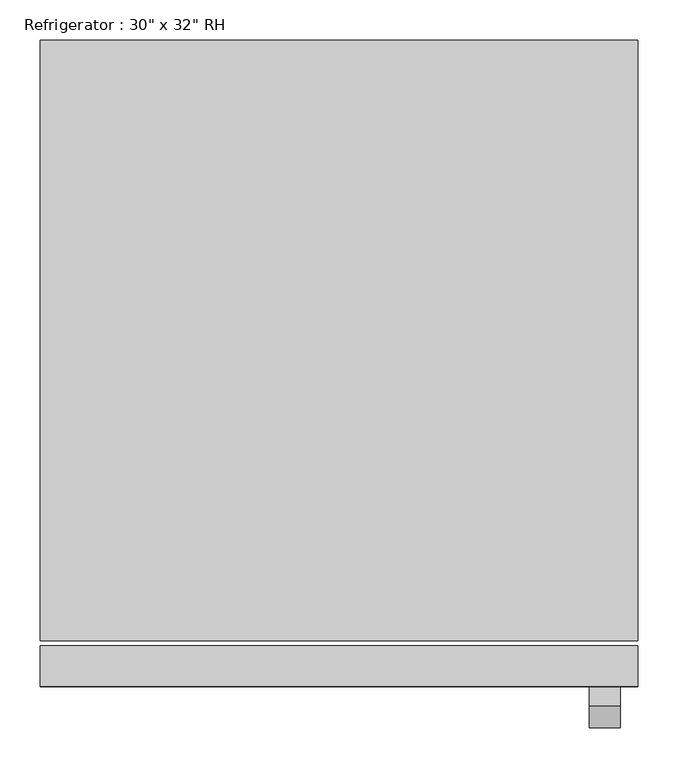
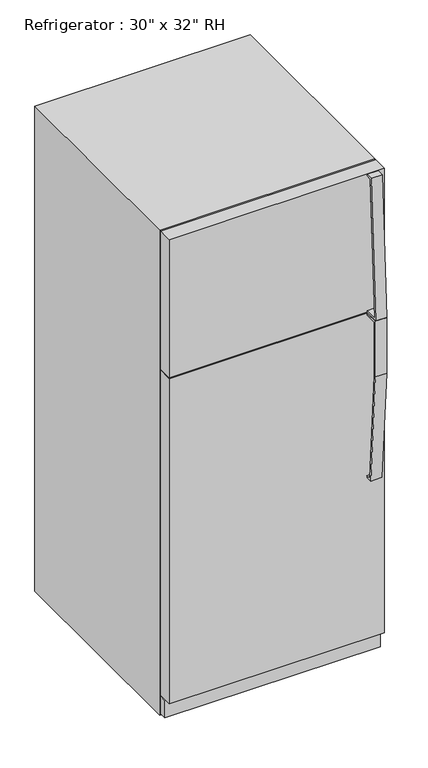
"""IFC4 building model written with IfcOpenShell, lengths in millimetres: proxy geometry."""

from ifc_helpers import new_model, si_unit, frame, origin, origin_with_axes, place, context, project, spatial, polyline, outline, extrude, source, transform, mapped, element, save


def proxy_a13a33b2(model_context):
    return source(origin(), model_context, "Body", "SweptSolid", [
        extrude(outline(polyline([(-417.9010285, 1262.0625), (-462.3510285, 1262.0625), (-462.3510285, 1065.4342469), (-434.8723987, 672.4715334), (-417.9010285, 672.4715334), (-417.9010285, 666.1370017), (-440.7949512, 666.1370017), (-468.7010285, 1065.2125), (-468.7010285, 1268.4125), (-417.9010285, 1268.4125), (-417.9010285, 1262.0625)])), frame((312.7375, 0.0, 0.0), z_axis=(1.0, 0.0, 0.0), x_axis=(0.0, 1.0, 0.0)), (0.0, 0.0, 1.0), 38.4332978),
        extrude(outline(polyline([(-442.739413, 1778.0), (-418.6780855, 1778.0), (-418.6780855, 1771.65), (-437.5263449, 1771.65), (-463.4007207, 1277.9375), (-418.6780855, 1277.9375), (-418.6780855, 1271.5875), (-469.2793675, 1271.5875), (-442.739413, 1778.0)])), frame((312.7375, 0.0, 0.0), z_axis=(1.0, 0.0, 0.0), x_axis=(0.0, 1.0, 0.0)), (0.0, 0.0, 1.0), 38.4332978),
        extrude(outline(polyline([(373.0625, -367.1010285), (373.0625, -392.5010285), (-373.0625, -392.5010285), (-373.0625, -367.1010285), (373.0625, -367.1010285)])), frame((0.0, 0.0, 9.3816357), z_axis=(0.0, 0.0, 1.0), x_axis=(1.0, 0.0, 0.0)), (0.0, 0.0, 1.0), 63.5),
        extrude(outline(polyline([(373.0625, -367.1010285), (373.0625, -417.9010285), (-373.0625, -417.9010285), (-373.0625, -367.1010285), (373.0625, -367.1010285)])), frame((0.0, 0.0, 76.2), z_axis=(0.0, 0.0, 1.0), x_axis=(1.0, 0.0, 0.0)), (0.0, 0.0, 1.0), 1192.2125),
        extrude(outline(polyline([(373.0625, -367.1010285), (373.0625, -417.9010285), (-373.0625, -417.9010285), (-373.0625, -367.1010285), (373.0625, -367.1010285)])), frame((0.0, 0.0, 1271.5875), z_axis=(0.0, 0.0, 1.0), x_axis=(1.0, 0.0, 0.0)), (0.0, 0.0, 1.0), 506.4125),
        extrude(outline(polyline([(373.0625, 388.5489715), (373.0625, -360.7510285), (-373.0625, -360.7510285), (-373.0625, 388.5489715), (373.0625, 388.5489715)])), origin_with_axes(), (0.0, 0.0, 1.0), 1778.0),
    ])


if __name__ == "__main__":
    model = new_model("IFC4")
    model_context = context("Model", 3, world=origin())
    ifc_project = project(units=[si_unit("LENGTHUNIT", "METRE", prefix="MILLI")], contexts=[model_context])
    site = spatial("IfcSite", under=ifc_project)
    building = spatial("IfcBuilding", under=site)
    placement = place(None, origin())
    proxy_shape = proxy_a13a33b2(model_context)
    element("IfcBuildingElementProxy", 1, Name="Refrigerator : 30\" x 32\" RH", ObjectType="Refrigerator : 30\" x 32\" RH", at=placement, inside=building, context=model_context, shape_type="MappedRepresentation", body=[
        mapped(proxy_shape, transform((0.0, 0.0, 0.0), x_axis=(1.0, 0.0, 0.0), y_axis=(0.0, 1.0, 0.0), z_axis=(0.0, 0.0, 1.0))),
    ])
    save(model, "model.ifc")
